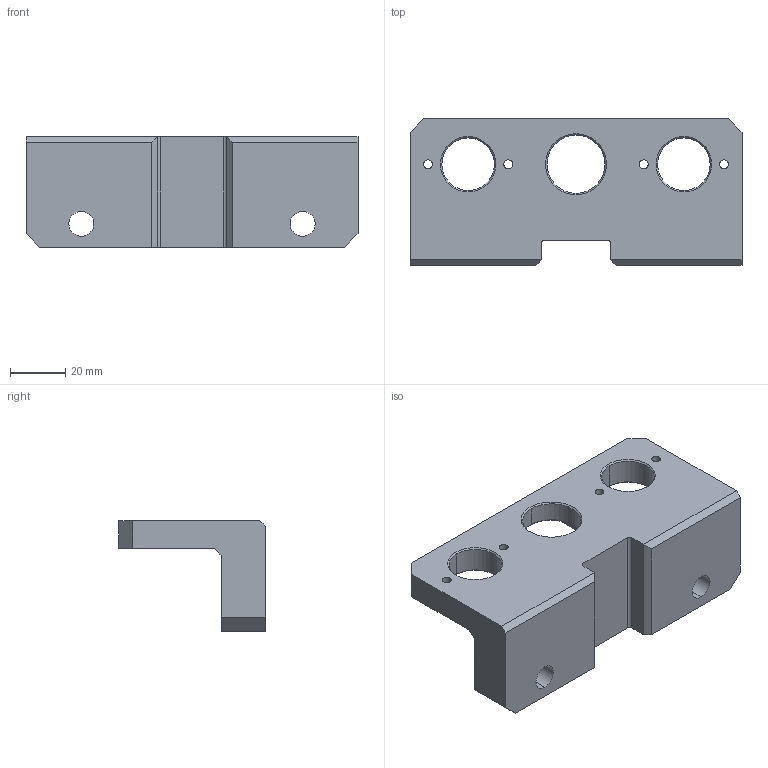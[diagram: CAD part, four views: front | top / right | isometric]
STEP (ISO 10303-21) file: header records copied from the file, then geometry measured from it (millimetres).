
FILE_DESCRIPTION (( 'STEP AP214' ), '1' );
FILE_NAME ('GZ29.06_V1肘夹安装座.STEP', '2021-05-07T05:12:30', ( '微软中国' ), ( 'Microsoft' ), 'SwSTEP 2.0', 'SolidWorks 2017', '' );
FILE_SCHEMA (( 'AUTOMOTIVE_DESIGN' ));
Length unit declared in the file: millimetre
Products named in the file (1): GZ29.06_V1紵標假蚾釱
Bounding box: 120 x 53 x 40 mm (x, y, z)
Volume: 97240.6 mm3; surface area: 25181.2 mm2
Topology: 1 solids, 1 shells, 65 faces, 181 edges, 120 vertices
Faces by surface type: plane 27, cylinder 26, cone 12
Entity records: 2273 total; most frequent: DIRECTION 389, CARTESIAN_POINT 367, ORIENTED_EDGE 362, EDGE_CURVE 181, AXIS2_PLACEMENT_3D 142, VERTEX_POINT 120, VECTOR 105, LINE 105
